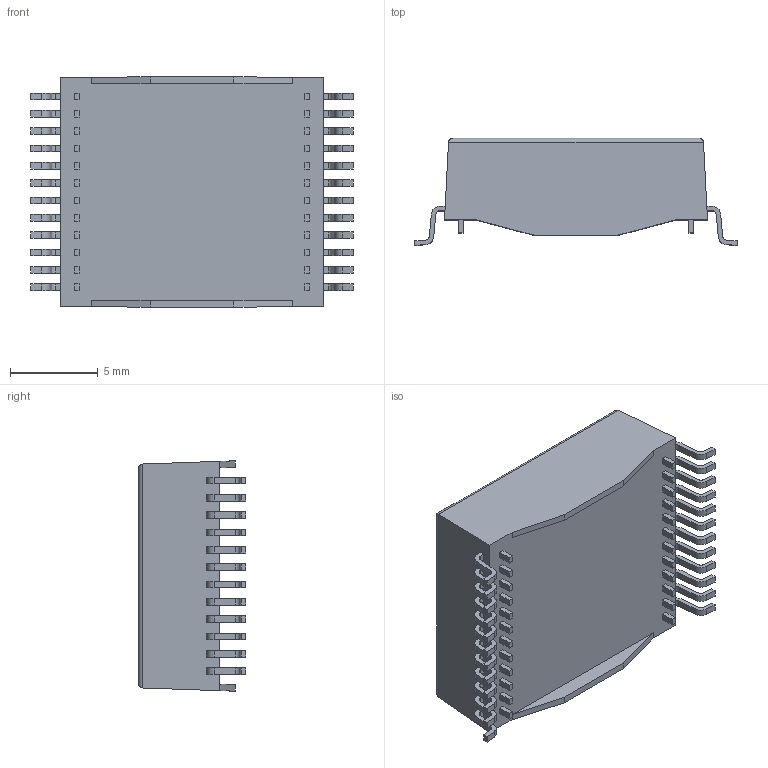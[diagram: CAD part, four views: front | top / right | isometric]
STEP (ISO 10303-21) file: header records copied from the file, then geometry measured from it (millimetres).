
FILE_DESCRIPTION (( 'STEP AP214' ), '1' );
FILE_NAME ('HX5008NL_3D.STEP', '2017-09-17T08:09:14', ( '' ), ( '' ), 'SwSTEP 2.0', 'SolidWorks 2015', '' );
FILE_SCHEMA (( 'AUTOMOTIVE_DESIGN' ));
Length unit declared in the file: inch
Products named in the file (1): HX5008NL_3D
Bounding box: 18.42 x 6.12 x 13.16 mm (x, y, z)
Volume: 902.3 mm3; surface area: 786 mm2
Topology: 1 solids, 1 shells, 473 faces, 1266 edges, 844 vertices
Faces by surface type: plane 351, cylinder 122
Entity records: 14716 total; most frequent: CARTESIAN_POINT 2608, ORIENTED_EDGE 2532, DIRECTION 2442, EDGE_CURVE 1266, LINE 1022, VECTOR 1022, VERTEX_POINT 844, AXIS2_PLACEMENT_3D 710
